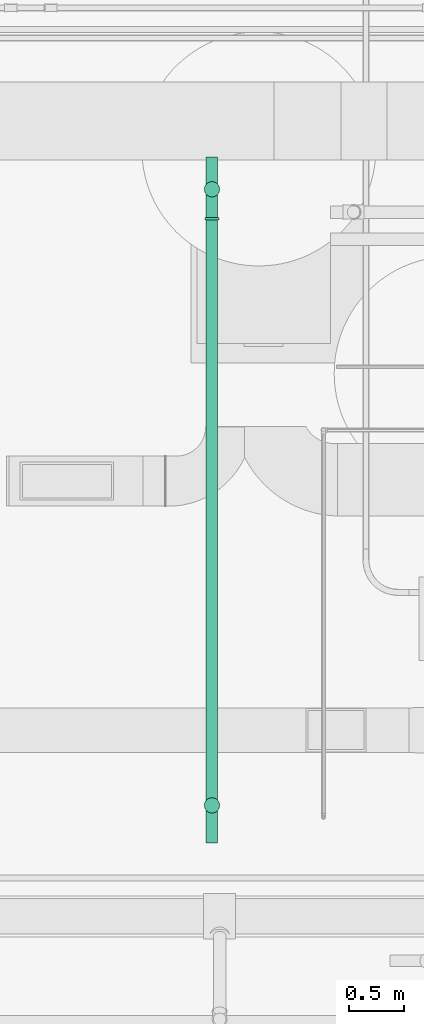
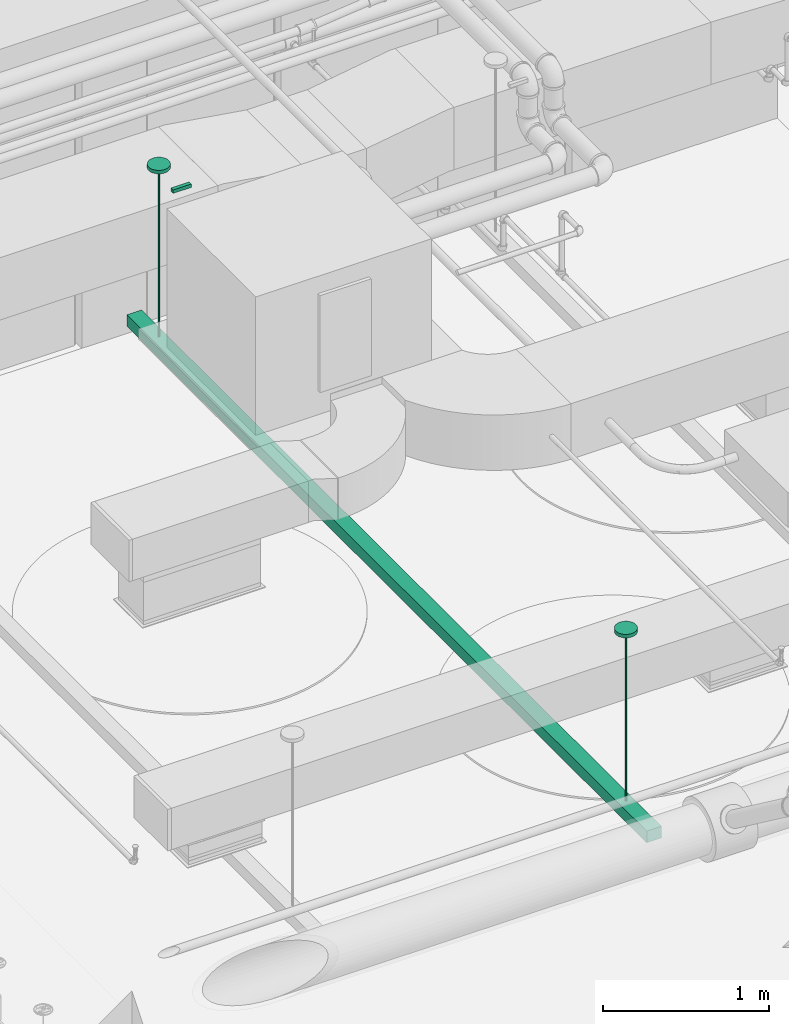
# One storey, part 26 of 108: 1 light fixture.
"""IFC4 building model written with IfcOpenShell, lengths in feet."""

from ifc_helpers import new_model, entity, si_unit, converted_unit, derived_unit, direction, frame, origin, place, context, subcontext, project, spatial, source, transform, mapped, material, type_object, type_shapes, element, save


model = new_model("IFC4")

# Units and contexts
model_context = context("Model", 3, precision=0.0001, world=origin(), true_north=direction((6.12303176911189e-17, 1.0)))
body_context = subcontext(model_context, "Body", "Model", "MODEL_VIEW")
ifc_project = project(units=[converted_unit("LENGTHUNIT", "FOOT", entity("IfcRatioMeasure", 0.3048), si_unit("LENGTHUNIT", "METRE"), dimensions=[1, 0, 0, 0, 0, 0, 0]), converted_unit("AREAUNIT", "SQUARE FOOT", entity("IfcRatioMeasure", 0.09290304), si_unit("AREAUNIT", "SQUARE_METRE"), dimensions=[2, 0, 0, 0, 0, 0, 0]), converted_unit("VOLUMEUNIT", "CUBIC FOOT", entity("IfcRatioMeasure", 0.028316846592), si_unit("VOLUMEUNIT", "CUBIC_METRE"), dimensions=[3, 0, 0, 0, 0, 0, 0]), converted_unit("PLANEANGLEUNIT", "DEGREE", entity("IfcRatioMeasure", 0.0174532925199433), si_unit("PLANEANGLEUNIT", "RADIAN"), dimensions=[0, 0, 0, 0, 0, 0, 0]), si_unit("MASSUNIT", "GRAM", prefix="KILO"), derived_unit("MASSDENSITYUNIT", [(si_unit("MASSUNIT", "GRAM", prefix="KILO"), 1), (si_unit("LENGTHUNIT", "METRE"), -3)]), si_unit("TIMEUNIT", "SECOND"), si_unit("FREQUENCYUNIT", "HERTZ"), si_unit("THERMODYNAMICTEMPERATUREUNIT", "DEGREE_CELSIUS"), derived_unit("THERMALTRANSMITTANCEUNIT", [(si_unit("MASSUNIT", "GRAM", prefix="KILO"), 1), (si_unit("THERMODYNAMICTEMPERATUREUNIT", "KELVIN"), -1), (si_unit("TIMEUNIT", "SECOND"), -3)]), derived_unit("VOLUMETRICFLOWRATEUNIT", [(si_unit("LENGTHUNIT", "METRE"), 3), (si_unit("TIMEUNIT", "SECOND"), -1)]), si_unit("ELECTRICCURRENTUNIT", "AMPERE"), si_unit("ELECTRICVOLTAGEUNIT", "VOLT"), si_unit("POWERUNIT", "WATT"), si_unit("FORCEUNIT", "NEWTON"), si_unit("ILLUMINANCEUNIT", "LUX"), si_unit("LUMINOUSFLUXUNIT", "LUMEN"), si_unit("LUMINOUSINTENSITYUNIT", "CANDELA"), derived_unit("USERDEFINED", [(si_unit("MASSUNIT", "GRAM", prefix="KILO"), -1), (si_unit("LENGTHUNIT", "METRE"), -2), (si_unit("TIMEUNIT", "SECOND"), 3), (si_unit("LUMINOUSFLUXUNIT", "LUMEN"), 1)]), derived_unit("LINEARVELOCITYUNIT", [(si_unit("LENGTHUNIT", "METRE"), 1), (si_unit("TIMEUNIT", "SECOND"), -1)]), si_unit("PRESSUREUNIT", "PASCAL"), derived_unit("USERDEFINED", [(si_unit("LENGTHUNIT", "METRE"), -2), (si_unit("MASSUNIT", "GRAM", prefix="KILO"), 1), (si_unit("TIMEUNIT", "SECOND"), -2)])], contexts=[model_context])

# Site, building, storey
site_placement = place(None, origin())
site = spatial("IfcSite", under=ifc_project, at=site_placement, Name="Default", CompositionType="ELEMENT")
building_placement = place(site_placement, origin())
building = spatial("IfcBuilding", under=site, at=building_placement, CompositionType="ELEMENT")
storey_placement = place(building_placement, frame((0.0, 0.0, 168.0)))
storey = spatial("IfcBuildingStorey", under=building, at=storey_placement, Name="Level 15", CompositionType="ELEMENT", Elevation=168.0)

# Light fixture
ifc_material = material(Name="Lighting Proxy", Category="System")
light_fixture_type = type_object("IfcLightFixtureType", Name="20' 8\"", PredefinedType="NOTDEFINED", material=ifc_material)
cartesian_point_1 = entity("IfcCartesianPoint", [0.891666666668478, 0.23440049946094, 4.43794169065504])
vertex_point_1 = entity("IfcVertexPoint", cartesian_point_1)
cartesian_point_2 = entity("IfcCartesianPoint", [1.35000000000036, 0.23440049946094, 4.43794169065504])
vertex_point_2 = entity("IfcVertexPoint", cartesian_point_2)
cartesian_point_3 = entity("IfcCartesianPoint", [1.12083333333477, 0.23440049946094, 4.43794169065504])
ifc_direction_1 = entity("IfcDirection", [0.0, 0.0, -1.0])
ifc_direction_2 = entity("IfcDirection", [1.0, 0.0, 0.0])
edge_curve_1 = entity("IfcEdgeCurve", vertex_point_1, vertex_point_2, entity("IfcTrimmedCurve", entity("IfcCircle", entity("IfcAxis2Placement3D", cartesian_point_3, ifc_direction_1, ifc_direction_2), 0.22916666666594), [cartesian_point_1], [cartesian_point_2], True, "CARTESIAN"), True)
cartesian_point_4 = entity("IfcCartesianPoint", [1.35000000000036, 0.234400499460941, 4.35387752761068])
vertex_point_3 = entity("IfcVertexPoint", cartesian_point_4)
edge_curve_2 = entity("IfcEdgeCurve", vertex_point_2, vertex_point_3, entity("IfcTrimmedCurve", entity("IfcLine", cartesian_point_2, entity("IfcVector", ifc_direction_1, 1.0)), [cartesian_point_2], [cartesian_point_4], True, "CARTESIAN"), True)
cartesian_point_5 = entity("IfcCartesianPoint", [0.891666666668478, 0.234400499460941, 4.35387752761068])
vertex_point_4 = entity("IfcVertexPoint", cartesian_point_5)
cartesian_point_6 = entity("IfcCartesianPoint", [1.12083333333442, 0.234400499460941, 4.35387752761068])
ifc_direction_3 = entity("IfcDirection", [0.0, 0.0, 1.0])
edge_curve_3 = entity("IfcEdgeCurve", vertex_point_3, vertex_point_4, entity("IfcTrimmedCurve", entity("IfcCircle", entity("IfcAxis2Placement3D", cartesian_point_6, ifc_direction_3, ifc_direction_2), 0.22916666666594), [cartesian_point_4], [cartesian_point_5], True, "CARTESIAN"), True)
edge_curve_4 = entity("IfcEdgeCurve", vertex_point_4, vertex_point_1, entity("IfcTrimmedCurve", entity("IfcLine", cartesian_point_5, entity("IfcVector", ifc_direction_3, 1.0)), [cartesian_point_5], [cartesian_point_1], True, "CARTESIAN"), True)
cartesian_point_7 = entity("IfcCartesianPoint", [1.12083333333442, 0.234400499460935, 4.75044169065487])
edge_curve_5 = entity("IfcEdgeCurve", vertex_point_2, vertex_point_1, entity("IfcTrimmedCurve", entity("IfcCircle", entity("IfcAxis2Placement3D", cartesian_point_3, ifc_direction_1, ifc_direction_2), 0.22916666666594), [cartesian_point_2], [cartesian_point_1], True, "CARTESIAN"), True)
edge_curve_6 = entity("IfcEdgeCurve", vertex_point_4, vertex_point_3, entity("IfcTrimmedCurve", entity("IfcCircle", entity("IfcAxis2Placement3D", cartesian_point_6, ifc_direction_3, ifc_direction_2), 0.22916666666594), [cartesian_point_5], [cartesian_point_4], True, "CARTESIAN"), True)
cartesian_point_8 = entity("IfcCartesianPoint", [1.14166666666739, 0.234400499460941, 4.35387752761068])
vertex_point_5 = entity("IfcVertexPoint", cartesian_point_8)
ifc_direction_4 = entity("IfcDirection", [-1.0, 0.0, 0.0])
edge_curve_7 = entity("IfcEdgeCurve", vertex_point_3, vertex_point_5, entity("IfcTrimmedCurve", entity("IfcLine", cartesian_point_4, entity("IfcVector", ifc_direction_4, 1.0)), [cartesian_point_4], [cartesian_point_8], True, "CARTESIAN"), True)
cartesian_point_9 = entity("IfcCartesianPoint", [1.10000000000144, 0.234400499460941, 4.35387752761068])
vertex_point_6 = entity("IfcVertexPoint", cartesian_point_9)
edge_curve_8 = entity("IfcEdgeCurve", vertex_point_5, vertex_point_6, entity("IfcTrimmedCurve", entity("IfcCircle", entity("IfcAxis2Placement3D", cartesian_point_6, ifc_direction_3, ifc_direction_2), 0.0208333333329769), [cartesian_point_8], [cartesian_point_9], True, "CARTESIAN"), True)
edge_curve_9 = entity("IfcEdgeCurve", vertex_point_6, vertex_point_4, entity("IfcTrimmedCurve", entity("IfcLine", cartesian_point_9, entity("IfcVector", ifc_direction_4, 1.0)), [cartesian_point_9], [cartesian_point_5], True, "CARTESIAN"), True)
edge_curve_10 = entity("IfcEdgeCurve", vertex_point_6, vertex_point_5, entity("IfcTrimmedCurve", entity("IfcCircle", entity("IfcAxis2Placement3D", cartesian_point_6, ifc_direction_3, ifc_direction_2), 0.0208333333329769), [cartesian_point_9], [cartesian_point_8], True, "CARTESIAN"), True)
cartesian_point_10 = entity("IfcCartesianPoint", [1.14166666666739, 0.234400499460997, 0.281250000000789])
vertex_point_7 = entity("IfcVertexPoint", cartesian_point_10)
edge_curve_11 = entity("IfcEdgeCurve", vertex_point_5, vertex_point_7, entity("IfcTrimmedCurve", entity("IfcLine", cartesian_point_8, entity("IfcVector", ifc_direction_1, 1.0)), [cartesian_point_8], [cartesian_point_10], True, "CARTESIAN"), True)
cartesian_point_11 = entity("IfcCartesianPoint", [1.10000000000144, 0.234400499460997, 0.281250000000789])
vertex_point_8 = entity("IfcVertexPoint", cartesian_point_11)
cartesian_point_12 = entity("IfcCartesianPoint", [1.12083333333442, 0.234400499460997, 0.281250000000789])
edge_curve_12 = entity("IfcEdgeCurve", vertex_point_7, vertex_point_8, entity("IfcTrimmedCurve", entity("IfcCircle", entity("IfcAxis2Placement3D", cartesian_point_12, ifc_direction_3, ifc_direction_2), 0.0208333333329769), [cartesian_point_10], [cartesian_point_11], True, "CARTESIAN"), True)
edge_curve_13 = entity("IfcEdgeCurve", vertex_point_8, vertex_point_6, entity("IfcTrimmedCurve", entity("IfcLine", cartesian_point_11, entity("IfcVector", ifc_direction_3, 1.0)), [cartesian_point_11], [cartesian_point_9], True, "CARTESIAN"), True)
edge_curve_14 = entity("IfcEdgeCurve", vertex_point_8, vertex_point_7, entity("IfcTrimmedCurve", entity("IfcCircle", entity("IfcAxis2Placement3D", cartesian_point_12, ifc_direction_3, ifc_direction_2), 0.0208333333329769), [cartesian_point_11], [cartesian_point_10], True, "CARTESIAN"), True)
vertex_point_9 = entity("IfcVertexPoint", cartesian_point_12)
edge_curve_15 = entity("IfcEdgeCurve", vertex_point_7, vertex_point_9, entity("IfcTrimmedCurve", entity("IfcLine", cartesian_point_10, entity("IfcVector", ifc_direction_4, 1.0)), [cartesian_point_10], [cartesian_point_12], True, "CARTESIAN"), True)
edge_curve_16 = entity("IfcEdgeCurve", vertex_point_9, vertex_point_8, entity("IfcTrimmedCurve", entity("IfcLine", cartesian_point_12, entity("IfcVector", ifc_direction_4, 1.0)), [cartesian_point_12], [cartesian_point_11], True, "CARTESIAN"), True)
vertex_point_10 = entity("IfcVertexPoint", cartesian_point_3)
edge_curve_17 = entity("IfcEdgeCurve", vertex_point_10, vertex_point_2, entity("IfcTrimmedCurve", entity("IfcLine", cartesian_point_3, entity("IfcVector", ifc_direction_2, 1.0)), [cartesian_point_3], [cartesian_point_2], True, "CARTESIAN"), True)
edge_curve_18 = entity("IfcEdgeCurve", vertex_point_1, vertex_point_10, entity("IfcTrimmedCurve", entity("IfcLine", cartesian_point_1, entity("IfcVector", ifc_direction_2, 1.0)), [cartesian_point_1], [cartesian_point_3], True, "CARTESIAN"), True)
cartesian_point_13 = entity("IfcCartesianPoint", [19.7749999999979, 0.23440049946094, 4.43794169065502])
vertex_point_11 = entity("IfcVertexPoint", cartesian_point_13)
cartesian_point_14 = entity("IfcCartesianPoint", [19.3166666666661, 0.23440049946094, 4.43794169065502])
vertex_point_12 = entity("IfcVertexPoint", cartesian_point_14)
cartesian_point_15 = entity("IfcCartesianPoint", [19.5458333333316, 0.23440049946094, 4.43794169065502])
ifc_direction_5 = entity("IfcDirection", [0.0, 0.0, 1.0])
ifc_direction_6 = entity("IfcDirection", [-1.0, 0.0, 0.0])
edge_curve_19 = entity("IfcEdgeCurve", vertex_point_11, vertex_point_12, entity("IfcTrimmedCurve", entity("IfcCircle", entity("IfcAxis2Placement3D", cartesian_point_15, ifc_direction_5, ifc_direction_6), 0.229166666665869), [cartesian_point_13], [cartesian_point_14], True, "CARTESIAN"), True)
vertex_point_13 = entity("IfcVertexPoint", cartesian_point_15)
ifc_direction_7 = entity("IfcDirection", [1.0, 0.0, 0.0])
edge_curve_20 = entity("IfcEdgeCurve", vertex_point_12, vertex_point_13, entity("IfcTrimmedCurve", entity("IfcLine", cartesian_point_14, entity("IfcVector", ifc_direction_7, 1.0)), [cartesian_point_14], [cartesian_point_15], True, "CARTESIAN"), True)
edge_curve_21 = entity("IfcEdgeCurve", vertex_point_13, vertex_point_11, entity("IfcTrimmedCurve", entity("IfcLine", cartesian_point_15, entity("IfcVector", ifc_direction_7, 1.0)), [cartesian_point_15], [cartesian_point_13], True, "CARTESIAN"), True)
edge_curve_22 = entity("IfcEdgeCurve", vertex_point_12, vertex_point_11, entity("IfcTrimmedCurve", entity("IfcCircle", entity("IfcAxis2Placement3D", cartesian_point_15, ifc_direction_5, ifc_direction_6), 0.229166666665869), [cartesian_point_14], [cartesian_point_13], True, "CARTESIAN"), True)
cartesian_point_16 = entity("IfcCartesianPoint", [19.7749999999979, 0.234400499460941, 4.35387752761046])
vertex_point_14 = entity("IfcVertexPoint", cartesian_point_16)
cartesian_point_17 = entity("IfcCartesianPoint", [19.3166666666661, 0.234400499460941, 4.35387752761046])
vertex_point_15 = entity("IfcVertexPoint", cartesian_point_17)
cartesian_point_18 = entity("IfcCartesianPoint", [19.545833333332, 0.234400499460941, 4.35387752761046])
edge_curve_23 = entity("IfcEdgeCurve", vertex_point_14, vertex_point_15, entity("IfcTrimmedCurve", entity("IfcCircle", entity("IfcAxis2Placement3D", cartesian_point_18, ifc_direction_5, ifc_direction_6), 0.229166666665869), [cartesian_point_16], [cartesian_point_17], True, "CARTESIAN"), True)
edge_curve_24 = entity("IfcEdgeCurve", vertex_point_15, vertex_point_12, entity("IfcTrimmedCurve", entity("IfcLine", cartesian_point_17, entity("IfcVector", ifc_direction_5, 1.0)), [cartesian_point_17], [cartesian_point_14], True, "CARTESIAN"), True)
ifc_direction_8 = entity("IfcDirection", [0.0, 0.0, -1.0])
edge_curve_25 = entity("IfcEdgeCurve", vertex_point_11, vertex_point_14, entity("IfcTrimmedCurve", entity("IfcLine", cartesian_point_13, entity("IfcVector", ifc_direction_8, 1.0)), [cartesian_point_13], [cartesian_point_16], True, "CARTESIAN"), True)
cartesian_point_19 = entity("IfcCartesianPoint", [19.545833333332, 0.234400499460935, 4.75044169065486])
edge_curve_26 = entity("IfcEdgeCurve", vertex_point_15, vertex_point_14, entity("IfcTrimmedCurve", entity("IfcCircle", entity("IfcAxis2Placement3D", cartesian_point_18, ifc_direction_5, ifc_direction_6), 0.229166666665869), [cartesian_point_17], [cartesian_point_16], True, "CARTESIAN"), True)
cartesian_point_20 = entity("IfcCartesianPoint", [19.5666666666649, 0.234400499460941, 4.35387752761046])
vertex_point_16 = entity("IfcVertexPoint", cartesian_point_20)
cartesian_point_21 = entity("IfcCartesianPoint", [19.5249999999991, 0.234400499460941, 4.35387752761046])
vertex_point_17 = entity("IfcVertexPoint", cartesian_point_21)
edge_curve_27 = entity("IfcEdgeCurve", vertex_point_16, vertex_point_17, entity("IfcTrimmedCurve", entity("IfcCircle", entity("IfcAxis2Placement3D", cartesian_point_18, ifc_direction_5, ifc_direction_6), 0.0208333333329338), [cartesian_point_20], [cartesian_point_21], True, "CARTESIAN"), True)
edge_curve_28 = entity("IfcEdgeCurve", vertex_point_17, vertex_point_15, entity("IfcTrimmedCurve", entity("IfcLine", cartesian_point_21, entity("IfcVector", ifc_direction_6, 1.0)), [cartesian_point_21], [cartesian_point_17], True, "CARTESIAN"), True)
edge_curve_29 = entity("IfcEdgeCurve", vertex_point_14, vertex_point_16, entity("IfcTrimmedCurve", entity("IfcLine", cartesian_point_16, entity("IfcVector", ifc_direction_6, 1.0)), [cartesian_point_16], [cartesian_point_20], True, "CARTESIAN"), True)
edge_curve_30 = entity("IfcEdgeCurve", vertex_point_17, vertex_point_16, entity("IfcTrimmedCurve", entity("IfcCircle", entity("IfcAxis2Placement3D", cartesian_point_18, ifc_direction_5, ifc_direction_6), 0.0208333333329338), [cartesian_point_21], [cartesian_point_20], True, "CARTESIAN"), True)
cartesian_point_22 = entity("IfcCartesianPoint", [19.5666666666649, 0.234400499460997, 0.281250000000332])
vertex_point_18 = entity("IfcVertexPoint", cartesian_point_22)
cartesian_point_23 = entity("IfcCartesianPoint", [19.5249999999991, 0.234400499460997, 0.281250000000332])
vertex_point_19 = entity("IfcVertexPoint", cartesian_point_23)
cartesian_point_24 = entity("IfcCartesianPoint", [19.5458333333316, 0.234400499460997, 0.281250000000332])
edge_curve_31 = entity("IfcEdgeCurve", vertex_point_18, vertex_point_19, entity("IfcTrimmedCurve", entity("IfcCircle", entity("IfcAxis2Placement3D", cartesian_point_24, ifc_direction_5, ifc_direction_6), 0.0208333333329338), [cartesian_point_22], [cartesian_point_23], True, "CARTESIAN"), True)
edge_curve_32 = entity("IfcEdgeCurve", vertex_point_19, vertex_point_17, entity("IfcTrimmedCurve", entity("IfcLine", cartesian_point_23, entity("IfcVector", ifc_direction_5, 1.0)), [cartesian_point_23], [cartesian_point_21], True, "CARTESIAN"), True)
edge_curve_33 = entity("IfcEdgeCurve", vertex_point_16, vertex_point_18, entity("IfcTrimmedCurve", entity("IfcLine", cartesian_point_20, entity("IfcVector", ifc_direction_8, 1.0)), [cartesian_point_20], [cartesian_point_22], True, "CARTESIAN"), True)
edge_curve_34 = entity("IfcEdgeCurve", vertex_point_19, vertex_point_18, entity("IfcTrimmedCurve", entity("IfcCircle", entity("IfcAxis2Placement3D", cartesian_point_24, ifc_direction_5, ifc_direction_6), 0.0208333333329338), [cartesian_point_23], [cartesian_point_22], True, "CARTESIAN"), True)
vertex_point_20 = entity("IfcVertexPoint", cartesian_point_24)
edge_curve_35 = entity("IfcEdgeCurve", vertex_point_20, vertex_point_19, entity("IfcTrimmedCurve", entity("IfcLine", cartesian_point_24, entity("IfcVector", ifc_direction_6, 1.0)), [cartesian_point_24], [cartesian_point_23], True, "CARTESIAN"), True)
edge_curve_36 = entity("IfcEdgeCurve", vertex_point_18, vertex_point_20, entity("IfcTrimmedCurve", entity("IfcLine", cartesian_point_22, entity("IfcVector", ifc_direction_6, 1.0)), [cartesian_point_22], [cartesian_point_24], True, "CARTESIAN"), True)
cartesian_point_25 = entity("IfcCartesianPoint", [18.7083333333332, 0.0260671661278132, 4.43794169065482])
vertex_point_21 = entity("IfcVertexPoint", cartesian_point_25)
cartesian_point_26 = entity("IfcCartesianPoint", [18.7083333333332, 0.44273383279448, 4.43794169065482])
vertex_point_22 = entity("IfcVertexPoint", cartesian_point_26)
ifc_direction_9 = entity("IfcDirection", [0.0, 1.0, 0.0])
edge_curve_37 = entity("IfcEdgeCurve", vertex_point_21, vertex_point_22, entity("IfcTrimmedCurve", entity("IfcLine", cartesian_point_25, entity("IfcVector", ifc_direction_9, 1.0)), [cartesian_point_25], [cartesian_point_26], True, "CARTESIAN"), True)
cartesian_point_27 = entity("IfcCartesianPoint", [18.6249999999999, 0.44273383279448, 4.43794169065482])
vertex_point_23 = entity("IfcVertexPoint", cartesian_point_27)
ifc_direction_10 = entity("IfcDirection", [-1.0, 0.0, 0.0])
edge_curve_38 = entity("IfcEdgeCurve", vertex_point_22, vertex_point_23, entity("IfcTrimmedCurve", entity("IfcLine", cartesian_point_26, entity("IfcVector", ifc_direction_10, 1.0)), [cartesian_point_26], [cartesian_point_27], True, "CARTESIAN"), True)
cartesian_point_28 = entity("IfcCartesianPoint", [18.6249999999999, 0.0260671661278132, 4.43794169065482])
vertex_point_24 = entity("IfcVertexPoint", cartesian_point_28)
ifc_direction_11 = entity("IfcDirection", [0.0, -1.0, 0.0])
edge_curve_39 = entity("IfcEdgeCurve", vertex_point_23, vertex_point_24, entity("IfcTrimmedCurve", entity("IfcLine", cartesian_point_27, entity("IfcVector", ifc_direction_11, 1.0)), [cartesian_point_27], [cartesian_point_28], True, "CARTESIAN"), True)
ifc_direction_12 = entity("IfcDirection", [1.0, 0.0, 0.0])
edge_curve_40 = entity("IfcEdgeCurve", vertex_point_24, vertex_point_21, entity("IfcTrimmedCurve", entity("IfcLine", cartesian_point_28, entity("IfcVector", ifc_direction_12, 1.0)), [cartesian_point_28], [cartesian_point_25], True, "CARTESIAN"), True)
ifc_direction_13 = entity("IfcDirection", [0.0, 0.0, 1.0])
cartesian_point_29 = entity("IfcCartesianPoint", [18.7083333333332, 0.0260671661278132, 4.35460835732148])
vertex_point_25 = entity("IfcVertexPoint", cartesian_point_29)
cartesian_point_30 = entity("IfcCartesianPoint", [18.6249999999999, 0.0260671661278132, 4.35460835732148])
vertex_point_26 = entity("IfcVertexPoint", cartesian_point_30)
edge_curve_41 = entity("IfcEdgeCurve", vertex_point_25, vertex_point_26, entity("IfcTrimmedCurve", entity("IfcLine", cartesian_point_29, entity("IfcVector", ifc_direction_10, 1.0)), [cartesian_point_29], [cartesian_point_30], True, "CARTESIAN"), True)
cartesian_point_31 = entity("IfcCartesianPoint", [18.6249999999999, 0.44273383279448, 4.35460835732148])
vertex_point_27 = entity("IfcVertexPoint", cartesian_point_31)
edge_curve_42 = entity("IfcEdgeCurve", vertex_point_26, vertex_point_27, entity("IfcTrimmedCurve", entity("IfcLine", cartesian_point_30, entity("IfcVector", ifc_direction_9, 1.0)), [cartesian_point_30], [cartesian_point_31], True, "CARTESIAN"), True)
cartesian_point_32 = entity("IfcCartesianPoint", [18.7083333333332, 0.44273383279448, 4.35460835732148])
vertex_point_28 = entity("IfcVertexPoint", cartesian_point_32)
edge_curve_43 = entity("IfcEdgeCurve", vertex_point_27, vertex_point_28, entity("IfcTrimmedCurve", entity("IfcLine", cartesian_point_31, entity("IfcVector", ifc_direction_12, 1.0)), [cartesian_point_31], [cartesian_point_32], True, "CARTESIAN"), True)
edge_curve_44 = entity("IfcEdgeCurve", vertex_point_28, vertex_point_25, entity("IfcTrimmedCurve", entity("IfcLine", cartesian_point_32, entity("IfcVector", ifc_direction_11, 1.0)), [cartesian_point_32], [cartesian_point_29], True, "CARTESIAN"), True)
ifc_direction_14 = entity("IfcDirection", [0.0, 0.0, -1.0])
edge_curve_45 = entity("IfcEdgeCurve", vertex_point_21, vertex_point_25, entity("IfcTrimmedCurve", entity("IfcLine", cartesian_point_25, entity("IfcVector", ifc_direction_14, 1.0)), [cartesian_point_25], [cartesian_point_29], True, "CARTESIAN"), True)
edge_curve_46 = entity("IfcEdgeCurve", vertex_point_28, vertex_point_22, entity("IfcTrimmedCurve", entity("IfcLine", cartesian_point_26, entity("IfcVector", ifc_direction_13, 1.0)), [cartesian_point_32], [cartesian_point_26], True, "CARTESIAN"), True)
edge_curve_47 = entity("IfcEdgeCurve", vertex_point_27, vertex_point_23, entity("IfcTrimmedCurve", entity("IfcLine", cartesian_point_27, entity("IfcVector", ifc_direction_13, 1.0)), [cartesian_point_31], [cartesian_point_27], True, "CARTESIAN"), True)
edge_curve_48 = entity("IfcEdgeCurve", vertex_point_26, vertex_point_24, entity("IfcTrimmedCurve", entity("IfcLine", cartesian_point_28, entity("IfcVector", ifc_direction_13, 1.0)), [cartesian_point_30], [cartesian_point_28], True, "CARTESIAN"), True)
cartesian_point_33 = entity("IfcCartesianPoint", [20.507260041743, 0.40656789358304, 0.28125000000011])
vertex_point_29 = entity("IfcVertexPoint", cartesian_point_33)
cartesian_point_34 = entity("IfcCartesianPoint", [0.0, 0.40656789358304, 0.281250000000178])
vertex_point_30 = entity("IfcVertexPoint", cartesian_point_34)
ifc_direction_15 = entity("IfcDirection", [-1.0, 0.0, 0.0])
edge_curve_49 = entity("IfcEdgeCurve", vertex_point_29, vertex_point_30, entity("IfcTrimmedCurve", entity("IfcLine", cartesian_point_33, entity("IfcVector", ifc_direction_15, 1.0)), [cartesian_point_33], [cartesian_point_34], True, "CARTESIAN"), True)
cartesian_point_35 = entity("IfcCartesianPoint", [0.0, 0.0732345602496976, 0.281250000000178])
vertex_point_31 = entity("IfcVertexPoint", cartesian_point_35)
ifc_direction_16 = entity("IfcDirection", [0.0, -1.0, 0.0])
edge_curve_50 = entity("IfcEdgeCurve", vertex_point_30, vertex_point_31, entity("IfcTrimmedCurve", entity("IfcLine", cartesian_point_34, entity("IfcVector", ifc_direction_16, 1.0)), [cartesian_point_34], [cartesian_point_35], True, "CARTESIAN"), True)
cartesian_point_36 = entity("IfcCartesianPoint", [20.507260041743, 0.0732345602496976, 0.28125000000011])
vertex_point_32 = entity("IfcVertexPoint", cartesian_point_36)
ifc_direction_17 = entity("IfcDirection", [1.0, 0.0, 0.0])
edge_curve_51 = entity("IfcEdgeCurve", vertex_point_31, vertex_point_32, entity("IfcTrimmedCurve", entity("IfcLine", cartesian_point_35, entity("IfcVector", ifc_direction_17, 1.0)), [cartesian_point_35], [cartesian_point_36], True, "CARTESIAN"), True)
ifc_direction_18 = entity("IfcDirection", [0.0, 1.0, 0.0])
edge_curve_52 = entity("IfcEdgeCurve", vertex_point_32, vertex_point_29, entity("IfcTrimmedCurve", entity("IfcLine", cartesian_point_36, entity("IfcVector", ifc_direction_18, 1.0)), [cartesian_point_36], [cartesian_point_33], True, "CARTESIAN"), True)
ifc_direction_19 = entity("IfcDirection", [0.0, 0.0, 1.0])
cartesian_point_37 = entity("IfcCartesianPoint", [20.507260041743, 0.40656789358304, 0.0])
vertex_point_33 = entity("IfcVertexPoint", cartesian_point_37)
cartesian_point_38 = entity("IfcCartesianPoint", [20.507260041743, 0.0732345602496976, 0.0])
vertex_point_34 = entity("IfcVertexPoint", cartesian_point_38)
edge_curve_53 = entity("IfcEdgeCurve", vertex_point_33, vertex_point_34, entity("IfcTrimmedCurve", entity("IfcLine", cartesian_point_37, entity("IfcVector", ifc_direction_16, 1.0)), [cartesian_point_37], [cartesian_point_38], True, "CARTESIAN"), True)
cartesian_point_39 = entity("IfcCartesianPoint", [0.0, 0.0732345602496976, 0.0])
vertex_point_35 = entity("IfcVertexPoint", cartesian_point_39)
edge_curve_54 = entity("IfcEdgeCurve", vertex_point_34, vertex_point_35, entity("IfcTrimmedCurve", entity("IfcLine", cartesian_point_38, entity("IfcVector", ifc_direction_15, 1.0)), [cartesian_point_38], [cartesian_point_39], True, "CARTESIAN"), True)
cartesian_point_40 = entity("IfcCartesianPoint", [0.0, 0.40656789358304, 0.0])
vertex_point_36 = entity("IfcVertexPoint", cartesian_point_40)
edge_curve_55 = entity("IfcEdgeCurve", vertex_point_35, vertex_point_36, entity("IfcTrimmedCurve", entity("IfcLine", cartesian_point_39, entity("IfcVector", ifc_direction_18, 1.0)), [cartesian_point_39], [cartesian_point_40], True, "CARTESIAN"), True)
edge_curve_56 = entity("IfcEdgeCurve", vertex_point_36, vertex_point_33, entity("IfcTrimmedCurve", entity("IfcLine", cartesian_point_40, entity("IfcVector", ifc_direction_17, 1.0)), [cartesian_point_40], [cartesian_point_37], True, "CARTESIAN"), True)
ifc_direction_20 = entity("IfcDirection", [0.0, 0.0, -1.0])
edge_curve_57 = entity("IfcEdgeCurve", vertex_point_29, vertex_point_33, entity("IfcTrimmedCurve", entity("IfcLine", cartesian_point_33, entity("IfcVector", ifc_direction_20, 1.0)), [cartesian_point_33], [cartesian_point_37], True, "CARTESIAN"), True)
edge_curve_58 = entity("IfcEdgeCurve", vertex_point_36, vertex_point_30, entity("IfcTrimmedCurve", entity("IfcLine", cartesian_point_34, entity("IfcVector", ifc_direction_19, 1.0)), [cartesian_point_40], [cartesian_point_34], True, "CARTESIAN"), True)
edge_curve_59 = entity("IfcEdgeCurve", vertex_point_31, vertex_point_35, entity("IfcTrimmedCurve", entity("IfcLine", cartesian_point_35, entity("IfcVector", ifc_direction_20, 1.0)), [cartesian_point_35], [cartesian_point_39], True, "CARTESIAN"), True)
edge_curve_60 = entity("IfcEdgeCurve", vertex_point_34, vertex_point_32, entity("IfcTrimmedCurve", entity("IfcLine", cartesian_point_36, entity("IfcVector", ifc_direction_19, 1.0)), [cartesian_point_38], [cartesian_point_36], True, "CARTESIAN"), True)
shared_shape = source(origin(), body_context, "Body", "AdvancedBrep", [
    entity("IfcAdvancedBrep", entity("IfcClosedShell", [entity("IfcAdvancedFace", [entity("IfcFaceOuterBound", entity("IfcEdgeLoop", [entity("IfcOrientedEdge", None, None, edge_curve_1, True), entity("IfcOrientedEdge", None, None, edge_curve_2, True), entity("IfcOrientedEdge", None, None, edge_curve_3, True), entity("IfcOrientedEdge", None, None, edge_curve_4, True)]), True)], entity("IfcCylindricalSurface", entity("IfcAxis2Placement3D", cartesian_point_7, ifc_direction_3, ifc_direction_2), 0.22916666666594), True), entity("IfcAdvancedFace", [entity("IfcFaceOuterBound", entity("IfcEdgeLoop", [entity("IfcOrientedEdge", None, None, edge_curve_5, True), entity("IfcOrientedEdge", None, None, edge_curve_4, False), entity("IfcOrientedEdge", None, None, edge_curve_6, True), entity("IfcOrientedEdge", None, None, edge_curve_2, False)]), True)], entity("IfcCylindricalSurface", entity("IfcAxis2Placement3D", cartesian_point_7, ifc_direction_3, ifc_direction_2), 0.22916666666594), True), entity("IfcAdvancedFace", [entity("IfcFaceOuterBound", entity("IfcEdgeLoop", [entity("IfcOrientedEdge", None, None, edge_curve_3, False), entity("IfcOrientedEdge", None, None, edge_curve_7, True), entity("IfcOrientedEdge", None, None, edge_curve_8, True), entity("IfcOrientedEdge", None, None, edge_curve_9, True)]), True)], entity("IfcPlane", entity("IfcAxis2Placement3D", cartesian_point_6, ifc_direction_1, ifc_direction_2)), True), entity("IfcAdvancedFace", [entity("IfcFaceOuterBound", entity("IfcEdgeLoop", [entity("IfcOrientedEdge", None, None, edge_curve_6, False), entity("IfcOrientedEdge", None, None, edge_curve_9, False), entity("IfcOrientedEdge", None, None, edge_curve_10, True), entity("IfcOrientedEdge", None, None, edge_curve_7, False)]), True)], entity("IfcPlane", entity("IfcAxis2Placement3D", cartesian_point_6, ifc_direction_1, ifc_direction_2)), True), entity("IfcAdvancedFace", [entity("IfcFaceOuterBound", entity("IfcEdgeLoop", [entity("IfcOrientedEdge", None, None, edge_curve_8, False), entity("IfcOrientedEdge", None, None, edge_curve_11, True), entity("IfcOrientedEdge", None, None, edge_curve_12, True), entity("IfcOrientedEdge", None, None, edge_curve_13, True)]), True)], entity("IfcCylindricalSurface", entity("IfcAxis2Placement3D", cartesian_point_7, ifc_direction_3, ifc_direction_2), 0.0208333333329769), True), entity("IfcAdvancedFace", [entity("IfcFaceOuterBound", entity("IfcEdgeLoop", [entity("IfcOrientedEdge", None, None, edge_curve_10, False), entity("IfcOrientedEdge", None, None, edge_curve_13, False), entity("IfcOrientedEdge", None, None, edge_curve_14, True), entity("IfcOrientedEdge", None, None, edge_curve_11, False)]), True)], entity("IfcCylindricalSurface", entity("IfcAxis2Placement3D", cartesian_point_7, ifc_direction_3, ifc_direction_2), 0.0208333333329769), True), entity("IfcAdvancedFace", [entity("IfcFaceOuterBound", entity("IfcEdgeLoop", [entity("IfcOrientedEdge", None, None, edge_curve_12, False), entity("IfcOrientedEdge", None, None, edge_curve_15, True), entity("IfcOrientedEdge", None, None, edge_curve_16, True)]), True)], entity("IfcPlane", entity("IfcAxis2Placement3D", cartesian_point_12, ifc_direction_1, ifc_direction_2)), True), entity("IfcAdvancedFace", [entity("IfcFaceOuterBound", entity("IfcEdgeLoop", [entity("IfcOrientedEdge", None, None, edge_curve_14, False), entity("IfcOrientedEdge", None, None, edge_curve_16, False), entity("IfcOrientedEdge", None, None, edge_curve_15, False)]), True)], entity("IfcPlane", entity("IfcAxis2Placement3D", cartesian_point_12, ifc_direction_1, ifc_direction_2)), True), entity("IfcAdvancedFace", [entity("IfcFaceOuterBound", entity("IfcEdgeLoop", [entity("IfcOrientedEdge", None, None, edge_curve_17, True), entity("IfcOrientedEdge", None, None, edge_curve_1, False), entity("IfcOrientedEdge", None, None, edge_curve_18, True)]), True)], entity("IfcPlane", entity("IfcAxis2Placement3D", cartesian_point_3, ifc_direction_3, ifc_direction_2)), True), entity("IfcAdvancedFace", [entity("IfcFaceOuterBound", entity("IfcEdgeLoop", [entity("IfcOrientedEdge", None, None, edge_curve_18, False), entity("IfcOrientedEdge", None, None, edge_curve_5, False), entity("IfcOrientedEdge", None, None, edge_curve_17, False)]), True)], entity("IfcPlane", entity("IfcAxis2Placement3D", cartesian_point_3, ifc_direction_3, ifc_direction_2)), True)])),
    entity("IfcAdvancedBrep", entity("IfcClosedShell", [entity("IfcAdvancedFace", [entity("IfcFaceOuterBound", entity("IfcEdgeLoop", [entity("IfcOrientedEdge", None, None, edge_curve_19, True), entity("IfcOrientedEdge", None, None, edge_curve_20, True), entity("IfcOrientedEdge", None, None, edge_curve_21, True)]), True)], entity("IfcPlane", entity("IfcAxis2Placement3D", cartesian_point_15, ifc_direction_5, ifc_direction_6)), True), entity("IfcAdvancedFace", [entity("IfcFaceOuterBound", entity("IfcEdgeLoop", [entity("IfcOrientedEdge", None, None, edge_curve_22, True), entity("IfcOrientedEdge", None, None, edge_curve_21, False), entity("IfcOrientedEdge", None, None, edge_curve_20, False)]), True)], entity("IfcPlane", entity("IfcAxis2Placement3D", cartesian_point_15, ifc_direction_5, ifc_direction_6)), True), entity("IfcAdvancedFace", [entity("IfcFaceOuterBound", entity("IfcEdgeLoop", [entity("IfcOrientedEdge", None, None, edge_curve_23, True), entity("IfcOrientedEdge", None, None, edge_curve_24, True), entity("IfcOrientedEdge", None, None, edge_curve_19, False), entity("IfcOrientedEdge", None, None, edge_curve_25, True)]), True)], entity("IfcCylindricalSurface", entity("IfcAxis2Placement3D", cartesian_point_19, ifc_direction_8, ifc_direction_6), 0.229166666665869), True), entity("IfcAdvancedFace", [entity("IfcFaceOuterBound", entity("IfcEdgeLoop", [entity("IfcOrientedEdge", None, None, edge_curve_26, True), entity("IfcOrientedEdge", None, None, edge_curve_25, False), entity("IfcOrientedEdge", None, None, edge_curve_22, False), entity("IfcOrientedEdge", None, None, edge_curve_24, False)]), True)], entity("IfcCylindricalSurface", entity("IfcAxis2Placement3D", cartesian_point_19, ifc_direction_8, ifc_direction_6), 0.229166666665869), True), entity("IfcAdvancedFace", [entity("IfcFaceOuterBound", entity("IfcEdgeLoop", [entity("IfcOrientedEdge", None, None, edge_curve_27, True), entity("IfcOrientedEdge", None, None, edge_curve_28, True), entity("IfcOrientedEdge", None, None, edge_curve_23, False), entity("IfcOrientedEdge", None, None, edge_curve_29, True)]), True)], entity("IfcPlane", entity("IfcAxis2Placement3D", cartesian_point_18, ifc_direction_8, ifc_direction_6)), True), entity("IfcAdvancedFace", [entity("IfcFaceOuterBound", entity("IfcEdgeLoop", [entity("IfcOrientedEdge", None, None, edge_curve_30, True), entity("IfcOrientedEdge", None, None, edge_curve_29, False), entity("IfcOrientedEdge", None, None, edge_curve_26, False), entity("IfcOrientedEdge", None, None, edge_curve_28, False)]), True)], entity("IfcPlane", entity("IfcAxis2Placement3D", cartesian_point_18, ifc_direction_8, ifc_direction_6)), True), entity("IfcAdvancedFace", [entity("IfcFaceOuterBound", entity("IfcEdgeLoop", [entity("IfcOrientedEdge", None, None, edge_curve_31, True), entity("IfcOrientedEdge", None, None, edge_curve_32, True), entity("IfcOrientedEdge", None, None, edge_curve_27, False), entity("IfcOrientedEdge", None, None, edge_curve_33, True)]), True)], entity("IfcCylindricalSurface", entity("IfcAxis2Placement3D", cartesian_point_19, ifc_direction_8, ifc_direction_6), 0.0208333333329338), True), entity("IfcAdvancedFace", [entity("IfcFaceOuterBound", entity("IfcEdgeLoop", [entity("IfcOrientedEdge", None, None, edge_curve_34, True), entity("IfcOrientedEdge", None, None, edge_curve_33, False), entity("IfcOrientedEdge", None, None, edge_curve_30, False), entity("IfcOrientedEdge", None, None, edge_curve_32, False)]), True)], entity("IfcCylindricalSurface", entity("IfcAxis2Placement3D", cartesian_point_19, ifc_direction_8, ifc_direction_6), 0.0208333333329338), True), entity("IfcAdvancedFace", [entity("IfcFaceOuterBound", entity("IfcEdgeLoop", [entity("IfcOrientedEdge", None, None, edge_curve_35, True), entity("IfcOrientedEdge", None, None, edge_curve_31, False), entity("IfcOrientedEdge", None, None, edge_curve_36, True)]), True)], entity("IfcPlane", entity("IfcAxis2Placement3D", cartesian_point_24, ifc_direction_8, ifc_direction_6)), True), entity("IfcAdvancedFace", [entity("IfcFaceOuterBound", entity("IfcEdgeLoop", [entity("IfcOrientedEdge", None, None, edge_curve_36, False), entity("IfcOrientedEdge", None, None, edge_curve_34, False), entity("IfcOrientedEdge", None, None, edge_curve_35, False)]), True)], entity("IfcPlane", entity("IfcAxis2Placement3D", cartesian_point_24, ifc_direction_8, ifc_direction_6)), True)])),
    entity("IfcAdvancedBrep", entity("IfcClosedShell", [entity("IfcAdvancedFace", [entity("IfcFaceOuterBound", entity("IfcEdgeLoop", [entity("IfcOrientedEdge", None, None, edge_curve_37, True), entity("IfcOrientedEdge", None, None, edge_curve_38, True), entity("IfcOrientedEdge", None, None, edge_curve_39, True), entity("IfcOrientedEdge", None, None, edge_curve_40, True)]), True)], entity("IfcPlane", entity("IfcAxis2Placement3D", cartesian_point_25, ifc_direction_13, ifc_direction_9)), True), entity("IfcAdvancedFace", [entity("IfcFaceOuterBound", entity("IfcEdgeLoop", [entity("IfcOrientedEdge", None, None, edge_curve_41, True), entity("IfcOrientedEdge", None, None, edge_curve_42, True), entity("IfcOrientedEdge", None, None, edge_curve_43, True), entity("IfcOrientedEdge", None, None, edge_curve_44, True)]), True)], entity("IfcPlane", entity("IfcAxis2Placement3D", cartesian_point_29, ifc_direction_14, ifc_direction_11)), True), entity("IfcAdvancedFace", [entity("IfcFaceOuterBound", entity("IfcEdgeLoop", [entity("IfcOrientedEdge", None, None, edge_curve_37, False), entity("IfcOrientedEdge", None, None, edge_curve_45, True), entity("IfcOrientedEdge", None, None, edge_curve_44, False), entity("IfcOrientedEdge", None, None, edge_curve_46, True)]), True)], entity("IfcPlane", entity("IfcAxis2Placement3D", cartesian_point_25, ifc_direction_12, ifc_direction_14)), True), entity("IfcAdvancedFace", [entity("IfcFaceOuterBound", entity("IfcEdgeLoop", [entity("IfcOrientedEdge", None, None, edge_curve_38, False), entity("IfcOrientedEdge", None, None, edge_curve_46, False), entity("IfcOrientedEdge", None, None, edge_curve_43, False), entity("IfcOrientedEdge", None, None, edge_curve_47, True)]), True)], entity("IfcPlane", entity("IfcAxis2Placement3D", cartesian_point_26, ifc_direction_9, ifc_direction_14)), True), entity("IfcAdvancedFace", [entity("IfcFaceOuterBound", entity("IfcEdgeLoop", [entity("IfcOrientedEdge", None, None, edge_curve_39, False), entity("IfcOrientedEdge", None, None, edge_curve_47, False), entity("IfcOrientedEdge", None, None, edge_curve_42, False), entity("IfcOrientedEdge", None, None, edge_curve_48, True)]), True)], entity("IfcPlane", entity("IfcAxis2Placement3D", cartesian_point_27, ifc_direction_10, ifc_direction_14)), True), entity("IfcAdvancedFace", [entity("IfcFaceOuterBound", entity("IfcEdgeLoop", [entity("IfcOrientedEdge", None, None, edge_curve_40, False), entity("IfcOrientedEdge", None, None, edge_curve_48, False), entity("IfcOrientedEdge", None, None, edge_curve_41, False), entity("IfcOrientedEdge", None, None, edge_curve_45, False)]), True)], entity("IfcPlane", entity("IfcAxis2Placement3D", cartesian_point_28, ifc_direction_11, ifc_direction_14)), True)])),
    entity("IfcAdvancedBrep", entity("IfcClosedShell", [entity("IfcAdvancedFace", [entity("IfcFaceOuterBound", entity("IfcEdgeLoop", [entity("IfcOrientedEdge", None, None, edge_curve_49, True), entity("IfcOrientedEdge", None, None, edge_curve_50, True), entity("IfcOrientedEdge", None, None, edge_curve_51, True), entity("IfcOrientedEdge", None, None, edge_curve_52, True)]), True)], entity("IfcPlane", entity("IfcAxis2Placement3D", cartesian_point_34, ifc_direction_19, ifc_direction_15)), True), entity("IfcAdvancedFace", [entity("IfcFaceOuterBound", entity("IfcEdgeLoop", [entity("IfcOrientedEdge", None, None, edge_curve_53, True), entity("IfcOrientedEdge", None, None, edge_curve_54, True), entity("IfcOrientedEdge", None, None, edge_curve_55, True), entity("IfcOrientedEdge", None, None, edge_curve_56, True)]), True)], entity("IfcPlane", entity("IfcAxis2Placement3D", cartesian_point_40, ifc_direction_20, ifc_direction_17)), True), entity("IfcAdvancedFace", [entity("IfcFaceOuterBound", entity("IfcEdgeLoop", [entity("IfcOrientedEdge", None, None, edge_curve_49, False), entity("IfcOrientedEdge", None, None, edge_curve_57, True), entity("IfcOrientedEdge", None, None, edge_curve_56, False), entity("IfcOrientedEdge", None, None, edge_curve_58, True)]), True)], entity("IfcPlane", entity("IfcAxis2Placement3D", cartesian_point_33, ifc_direction_18, ifc_direction_20)), True), entity("IfcAdvancedFace", [entity("IfcFaceOuterBound", entity("IfcEdgeLoop", [entity("IfcOrientedEdge", None, None, edge_curve_51, False), entity("IfcOrientedEdge", None, None, edge_curve_59, True), entity("IfcOrientedEdge", None, None, edge_curve_54, False), entity("IfcOrientedEdge", None, None, edge_curve_60, True)]), True)], entity("IfcPlane", entity("IfcAxis2Placement3D", cartesian_point_35, ifc_direction_16, ifc_direction_20)), True), entity("IfcAdvancedFace", [entity("IfcFaceOuterBound", entity("IfcEdgeLoop", [entity("IfcOrientedEdge", None, None, edge_curve_50, False), entity("IfcOrientedEdge", None, None, edge_curve_58, False), entity("IfcOrientedEdge", None, None, edge_curve_55, False), entity("IfcOrientedEdge", None, None, edge_curve_59, False)]), True)], entity("IfcPlane", entity("IfcAxis2Placement3D", cartesian_point_34, ifc_direction_15, ifc_direction_20)), True), entity("IfcAdvancedFace", [entity("IfcFaceOuterBound", entity("IfcEdgeLoop", [entity("IfcOrientedEdge", None, None, edge_curve_52, False), entity("IfcOrientedEdge", None, None, edge_curve_60, False), entity("IfcOrientedEdge", None, None, edge_curve_53, False), entity("IfcOrientedEdge", None, None, edge_curve_57, False)]), True)], entity("IfcPlane", entity("IfcAxis2Placement3D", cartesian_point_36, ifc_direction_17, ifc_direction_20)), True)])),
])
type_shapes(light_fixture_type, [shared_shape])
light_fixture_placement = place(storey_placement, frame((-39.8339771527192, -14.5512021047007, 7.64539164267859), z_axis=(0.0, 0.0, 1.0), x_axis=(0.0, 1.0, 0.0)))
element("IfcLightFixture", 1, at=light_fixture_placement, inside=storey, type_object=light_fixture_type, material=ifc_material, Name="Linear:20' 8\"", ObjectType="Linear:20' 8\"", PredefinedType="NOTDEFINED", context=body_context, shape_type="MappedRepresentation", body=[
    mapped(shared_shape, transform((0.0, 0.0, 0.0), scale=1.0)),
])

save(model, "model.ifc")
